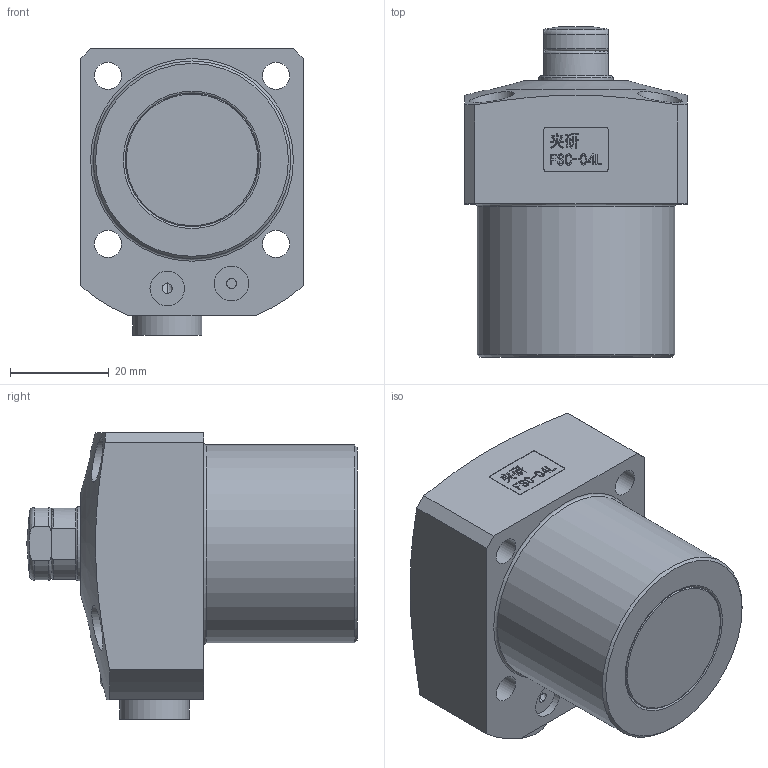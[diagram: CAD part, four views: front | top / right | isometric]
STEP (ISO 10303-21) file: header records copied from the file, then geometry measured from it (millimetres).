
FILE_DESCRIPTION(/* description */ (''),/* implementation_level */ '2;1');
FILE_NAME(/* name */ 'FSC-04L.stp',/* time_stamp */ '2022-05-04T13:48:55+08:00',/* author */ (''),/* organization */ (''),/* preprocessor_version */ 'ST-DEVELOPER v16.7',/* originating_system */ 'SIEMENS PLM Software NX 12.0',/* authorisation */ '');
FILE_SCHEMA (('AUTOMOTIVE_DESIGN { 1 0 10303 214 3 1 1 1 }'));
Length unit declared in the file: millimetre
Products named in the file (1): FSC-040BL
Bounding box: 45 x 66.82 x 58 mm (x, y, z)
Volume: 99049.2 mm3; surface area: 28602.9 mm2
Topology: 7 solids, 7 shells, 330 faces, 793 edges, 510 vertices
Faces by surface type: plane 166, extrusion 58, cylinder 51, cone 37, torus 15, bspline 2, sphere 1
Full cylindrical faces by diameter (mm): 2 x2, 5.5 x4, 7 x2, 8 x11, 8.4 x2, 8.5 x1, 9 x5, 10 x1, 14 x1, 15 x4, 22 x1, 27 x2, 32.5 x1, 35 x1, 36.601 x1, 40 x1
Entity records: 11469 total; most frequent: CARTESIAN_POINT 3107, ORIENTED_EDGE 1384, DIRECTION 1295, EDGE_CURVE 692, VERTEX_POINT 498, EDGE_LOOP 469, VECTOR 463, AXIS2_PLACEMENT_3D 416
